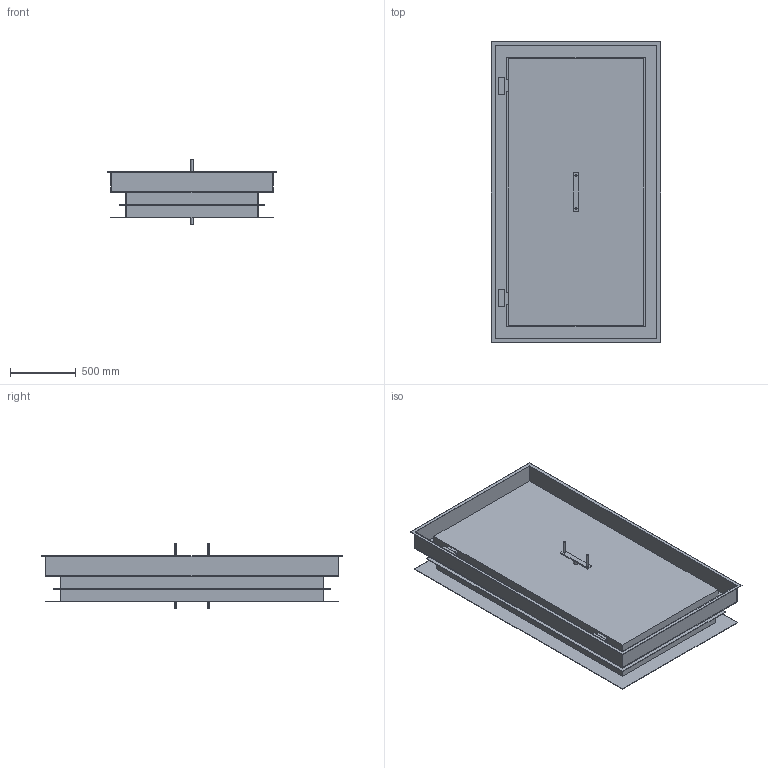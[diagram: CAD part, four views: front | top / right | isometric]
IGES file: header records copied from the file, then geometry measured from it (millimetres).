
Start section:  PTC IGES file: 51300101.igs
Global section: file name: 51300101.igs; native system: Creo Parametric by Parametric Technology Corporation; preprocessor: 2017170; author: ka; organization: Unknown; date: 20190412.082021; units: millimetre
Bounding box: 1290 x 2290 x 495 mm (x, y, z)
Surface area: 13496781.1 mm2 (no closed solid volume)
Topology: 0 solids, 0 shells, 99 faces, 464 edges, 464 vertices
Faces by surface type: bspline 87, revolution 12
